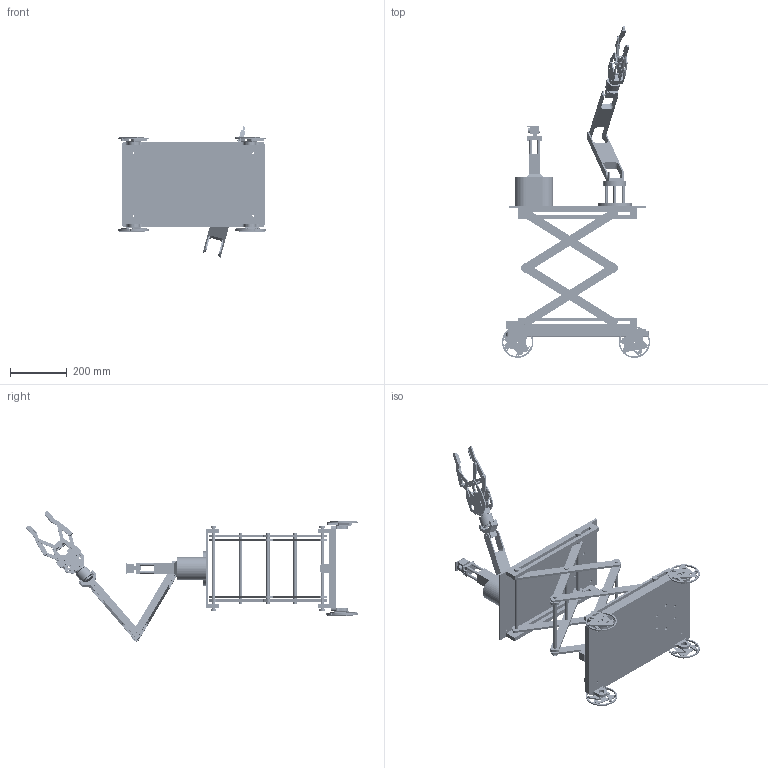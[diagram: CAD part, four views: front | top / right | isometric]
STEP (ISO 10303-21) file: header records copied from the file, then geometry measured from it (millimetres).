
FILE_DESCRIPTION(('Open CASCADE Model'),'2;1');
FILE_NAME('Open CASCADE Shape Model','2026-11-12T11:47:19',('Author'),( 'Open CASCADE'),'Open CASCADE STEP processor 8.0','Open CASCADE 8.0' ,'Unknown');
FILE_SCHEMA(('AUTOMOTIVE_DESIGN { 1 0 10303 214 1 1 1 1 }'));
Length unit declared in the file: millimetre
Products named in the file (51): Robot_With_Scissor_Lift; SUB_Chassis; Robot_Chassis_Only; RobotRef_TriPlate_S; RobotRef_Wheel; RobotRef_TriPlate_L; RobotRef_RollerLink; SUB_ScissorLift; Drive_Screw_Envelope; Geared_Motor_Envelope; Guide_Roller_Axle; Lift_Lower_Frame; Pivot_Axle_D12; Scissor_Inner_Pair; Scissor_Outer_Pair; Screw_Bearing_Block; Slider_Nut_Block; SUB_Platform; Lift_Upper_Platform; SUB_Arm; Robot_Arm_Base_Rebuilt; RobotRef_Arm_Upper; RobotRef_Arm_Fore; RobotRef_Turntable; SUB_VisionMast; Robot_Camera_Mast_Only; RobotRef_Camera_40mm_TopMount; Gripper_EndEffector; Grip_Arm_Adapter; Grip_Arm_Mount_Pin; Grip_Bush_Front; Grip_Bush_Rear; Grip_Coupler_Pin; Grip_Drive_Link70; Grip_Finger_Left; Grip_Finger_Pin; Grip_Finger_Right; Grip_Follower_Link70; Grip_Ground_Pin; Grip_Pad_Left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
Assembly tree (101 placements, depth 3):
  Robot_With_Scissor_Lift
    SUB_Chassis
      Robot_Chassis_Only
      RobotRef_TriPlate_S  x4
      RobotRef_Wheel  x12
      RobotRef_TriPlate_L  x4
      RobotRef_RollerLink  x12
    SUB_ScissorLift
      Drive_Screw_Envelope
      Geared_Motor_Envelope
      Guide_Roller_Axle  x4
      Lift_Lower_Frame
      Pivot_Axle_D12  x4
      Scissor_Inner_Pair  x2
      Scissor_Outer_Pair  x2
      Screw_Bearing_Block  x2
      Slider_Nut_Block
    SUB_Platform
      Lift_Upper_Platform
    SUB_Arm
      Robot_Arm_Base_Rebuilt
      RobotRef_Arm_Upper
      RobotRef_Arm_Fore
      RobotRef_Turntable
    SUB_VisionMast
      Robot_Camera_Mast_Only
      RobotRef_Camera_40mm_TopMount
    Gripper_EndEffector
      Grip_Arm_Adapter
      Grip_Arm_Mount_Pin
      Grip_Bush_Front  x2
      Grip_Bush_Rear  x2
      Grip_Coupler_Pin  x2
      Grip_Drive_Link70  x2
      Grip_Finger_Left
      Grip_Finger_Pin  x2
      Grip_Finger_Right
      Grip_Follower_Link70  x2
      Grip_Ground_Pin  x4
      Grip_Pad_Left
      Grip_Pad_Right
      Grip_Palm_Front
      Grip_Palm_Rear
      Grip_Rotor_Bridge
      Grip_Stator_Screw_Head  x2
      Grip_Stator_Screw_Shank  x2
      Grip_Sync_Gear_m1_5_Z32  x2
      Grip_Wrist_Bearing  x2
      Grip_Wrist_Housing
      Grip_Wrist_Rotor
      Grip_Wrist_Spacer  x2
Bounding box: 520.38 x 1164.99 x 460.63 mm (x, y, z)
Volume: 8916151.5 mm3; surface area: 1871759.2 mm2
Topology: 99 solids, 99 shells, 58488 faces, 87732 edges, 28976 vertices
Faces by surface type: plane 58488
Entity records: 1100812 total; most frequent: CARTESIAN_POINT 219814, DIRECTION 146784, ORIENTED_EDGE 87948, LINE 87948, VECTOR 87948, PCURVE 87948, DEFINITIONAL_REPRESENTATION 87948, EDGE_CURVE 43974
